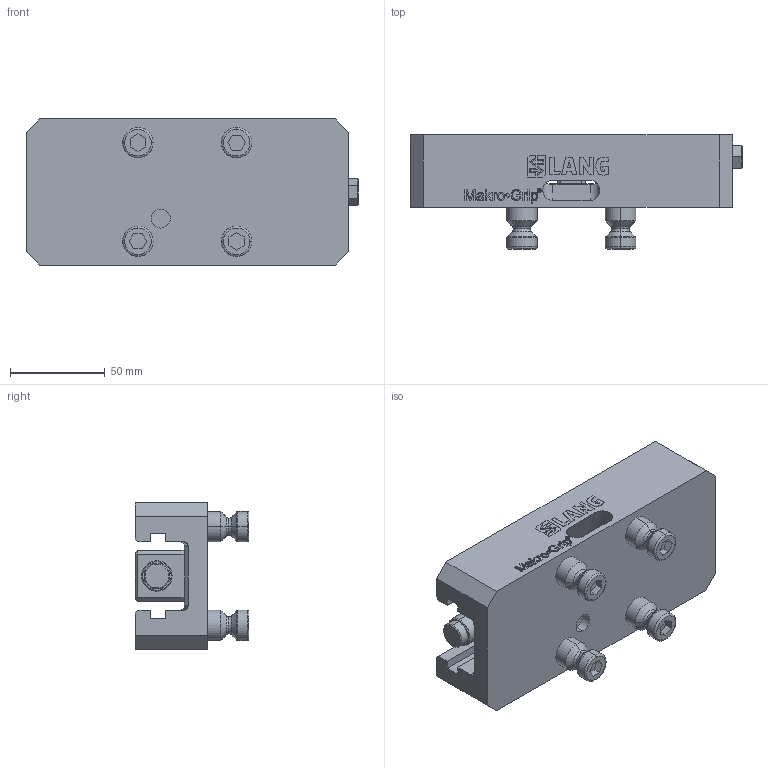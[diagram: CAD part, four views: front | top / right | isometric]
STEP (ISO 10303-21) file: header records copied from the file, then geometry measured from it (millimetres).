
FILE_DESCRIPTION (( 'STEP AP214' ), '1' );
FILE_NAME ('40160-77.STEP', '2024-12-11T08:27:55', ( '' ), ( '' ), 'SwSTEP 2.0', 'SolidWorks 2021', '' );
FILE_SCHEMA (( 'AUTOMOTIVE_DESIGN' ));
Length unit declared in the file: millimetre
Products named in the file (1): 40160-77
Bounding box: 175 x 60 x 77.2 mm (x, y, z)
Volume: 356699.9 mm3; surface area: 79294.5 mm2
Topology: 48 solids, 48 shells, 857 faces, 2134 edges, 1386 vertices
Faces by surface type: plane 527, bspline 192, cylinder 68, cone 38, torus 32
Entity records: 42974 total; most frequent: CARTESIAN_POINT 13898, ORIENTED_EDGE 4252, DIRECTION 3236, EDGE_CURVE 2126, LINE 1516, VECTOR 1516, VERTEX_POINT 1386, UNCERTAINTY_MEASURE_WITH_UNIT 907
